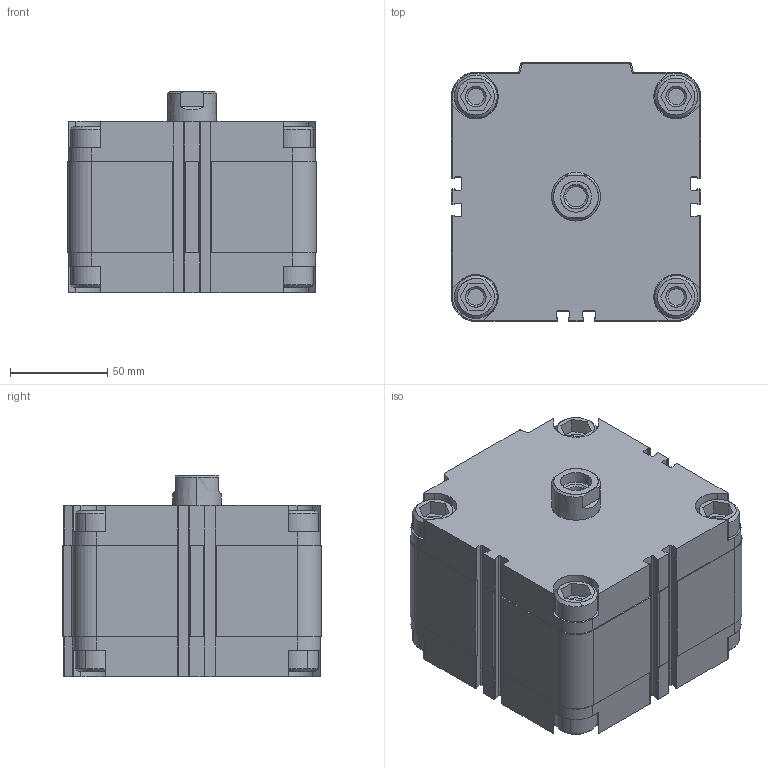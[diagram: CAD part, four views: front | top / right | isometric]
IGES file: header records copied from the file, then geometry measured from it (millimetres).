
Start section: SolidWorks IGES file using analytic representation for surfaces
Global section: file name: K:\Disegni Esecutivi\Cilindri\2_DISEGNI_cilindri_in_produzione\5_Cilindri Compatti\complessivicompatti\QF\QF100\QF100parti\QF1000020A.igs; native system: SolidWorks 2011; preprocessor: SolidWorks 2011; author: Cad01; date: 120804.093824; units: millimetre
Bounding box: 128 x 133 x 103.5 mm (x, y, z)
Surface area: 101017.2 mm2 (no closed solid volume)
Topology: 0 solids, 0 shells, 523 faces, 5963 edges, 5959 vertices
Faces by surface type: bspline 272, revolution 251
